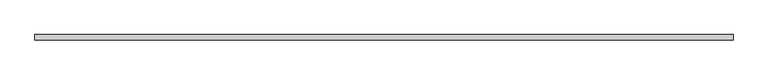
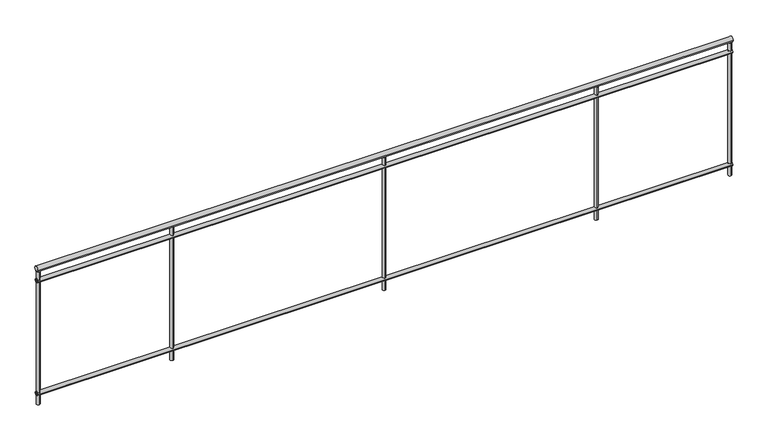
"""IFC4 building model written with IfcOpenShell, lengths in millimetres: railing geometry, バルコニー手摺."""

from ifc_helpers import new_model, si_unit, point, frame, frame_2d, origin, place, context, project, spatial, circle_curve, trimmed, segment, composite_curve, outline, extrude, source, transform, mapped, element, save


def railing_5367abb0(model_context):
    return source(origin(), model_context, "Body", "SweptSolid", [
        extrude(outline(composite_curve([segment(trimmed(circle_curve(frame_2d((10035.2598658, 4980.0)), 20.0), [point((10055.2598658, 4980.0))], [point((10015.2598658, 4980.0))], False, "CARTESIAN"), True, "CONTINUOUS"), segment(trimmed(circle_curve(frame_2d((10035.2598658, 4980.0)), 20.0), [point((10015.2598658, 4980.0))], [point((10055.2598658, 4980.0))], False, "CARTESIAN"), True, "CONTINUOUS")], self_intersect=False)), frame((9854.3805905, 0.0, 0.0), z_axis=(1.0, 0.0, 0.0), x_axis=(0.0, 1.0, 0.0)), (0.0, 0.0, 1.0), 5240.0),
        extrude(outline(composite_curve([segment(trimmed(circle_curve(frame_2d((10035.2598658, 4885.0)), 15.0), [point((10050.2598658, 4885.0))], [point((10020.2598658, 4885.0))], False, "CARTESIAN"), True, "CONTINUOUS"), segment(trimmed(circle_curve(frame_2d((10035.2598658, 4885.0)), 15.0), [point((10020.2598658, 4885.0))], [point((10050.2598658, 4885.0))], False, "CARTESIAN"), True, "CONTINUOUS")], self_intersect=False)), frame((9854.3805905, 0.0, 0.0), z_axis=(1.0, 0.0, 0.0), x_axis=(0.0, 1.0, 0.0)), (0.0, 0.0, 1.0), 5240.0),
        extrude(outline(composite_curve([segment(trimmed(circle_curve(frame_2d((10035.2598658, 3985.0)), 15.0), [point((10050.2598658, 3985.0))], [point((10020.2598658, 3985.0))], False, "CARTESIAN"), True, "CONTINUOUS"), segment(trimmed(circle_curve(frame_2d((10035.2598658, 3985.0)), 15.0), [point((10020.2598658, 3985.0))], [point((10050.2598658, 3985.0))], False, "CARTESIAN"), True, "CONTINUOUS")], self_intersect=False)), frame((9854.3805905, 0.0, 0.0), z_axis=(1.0, 0.0, 0.0), x_axis=(0.0, 1.0, 0.0)), (0.0, 0.0, 1.0), 5240.0),
        extrude(outline(composite_curve([segment(trimmed(circle_curve(frame_2d((10874.3805905, 10035.2598658)), 12.5), [point((10874.3805905, 10047.7598658))], [point((10874.3805905, 10022.7598658))], False, "CARTESIAN"), True, "CONTINUOUS"), segment(trimmed(circle_curve(frame_2d((10874.3805905, 10035.2598658)), 12.5), [point((10874.3805905, 10022.7598658))], [point((10874.3805905, 10047.7598658))], False, "CARTESIAN"), True, "CONTINUOUS")], self_intersect=False)), frame((0.0, 0.0, 3900.0), z_axis=(0.0, 0.0, 1.0), x_axis=(1.0, 0.0, 0.0)), (0.0, 0.0, 1.0), 1060.0),
        extrude(outline(composite_curve([segment(trimmed(circle_curve(frame_2d((12474.3805905, 10035.2598658)), 12.5), [point((12474.3805905, 10047.7598658))], [point((12474.3805905, 10022.7598658))], False, "CARTESIAN"), True, "CONTINUOUS"), segment(trimmed(circle_curve(frame_2d((12474.3805905, 10035.2598658)), 12.5), [point((12474.3805905, 10022.7598658))], [point((12474.3805905, 10047.7598658))], False, "CARTESIAN"), True, "CONTINUOUS")], self_intersect=False)), frame((0.0, 0.0, 3900.0), z_axis=(0.0, 0.0, 1.0), x_axis=(1.0, 0.0, 0.0)), (0.0, 0.0, 1.0), 1060.0),
        extrude(outline(composite_curve([segment(trimmed(circle_curve(frame_2d((14074.3805905, 10035.2598658)), 12.5), [point((14074.3805905, 10047.7598658))], [point((14074.3805905, 10022.7598658))], False, "CARTESIAN"), True, "CONTINUOUS"), segment(trimmed(circle_curve(frame_2d((14074.3805905, 10035.2598658)), 12.5), [point((14074.3805905, 10022.7598658))], [point((14074.3805905, 10047.7598658))], False, "CARTESIAN"), True, "CONTINUOUS")], self_intersect=False)), frame((0.0, 0.0, 3900.0), z_axis=(0.0, 0.0, 1.0), x_axis=(1.0, 0.0, 0.0)), (0.0, 0.0, 1.0), 1060.0),
        extrude(outline(composite_curve([segment(trimmed(circle_curve(frame_2d((9866.5805905, 10035.2598658)), 12.5), [point((9866.5805905, 10047.7598658))], [point((9866.5805905, 10022.7598658))], False, "CARTESIAN"), True, "CONTINUOUS"), segment(trimmed(circle_curve(frame_2d((9866.5805905, 10035.2598658)), 12.5), [point((9866.5805905, 10022.7598658))], [point((9866.5805905, 10047.7598658))], False, "CARTESIAN"), True, "CONTINUOUS")], self_intersect=False)), frame((0.0, 0.0, 3900.0), z_axis=(0.0, 0.0, 1.0), x_axis=(1.0, 0.0, 0.0)), (0.0, 0.0, 1.0), 1060.0),
        extrude(outline(composite_curve([segment(trimmed(circle_curve(frame_2d((15082.1805905, 10035.2598658)), 12.5), [point((15082.1805905, 10047.7598658))], [point((15082.1805905, 10022.7598658))], False, "CARTESIAN"), True, "CONTINUOUS"), segment(trimmed(circle_curve(frame_2d((15082.1805905, 10035.2598658)), 12.5), [point((15082.1805905, 10022.7598658))], [point((15082.1805905, 10047.7598658))], False, "CARTESIAN"), True, "CONTINUOUS")], self_intersect=False)), frame((0.0, 0.0, 3900.0), z_axis=(0.0, 0.0, 1.0), x_axis=(1.0, 0.0, 0.0)), (0.0, 0.0, 1.0), 1060.0),
    ])


if __name__ == "__main__":
    model = new_model("IFC4")
    model_context = context("Model", 3, world=origin())
    ifc_project = project(units=[si_unit("LENGTHUNIT", "METRE", prefix="MILLI")], contexts=[model_context])
    site = spatial("IfcSite", under=ifc_project)
    building = spatial("IfcBuilding", under=site)
    placement = place(None, origin())
    railing_shape = railing_5367abb0(model_context)
    element("IfcRailing", 1, ObjectType="バルコニー手摺", at=placement, inside=building, context=model_context, shape_type="MappedRepresentation", body=[
        mapped(railing_shape, transform((0.0, 0.0, 0.0), x_axis=(1.0, 0.0, 0.0), y_axis=(0.0, 1.0, 0.0), z_axis=(0.0, 0.0, 1.0))),
    ])
    save(model, "model.ifc")
